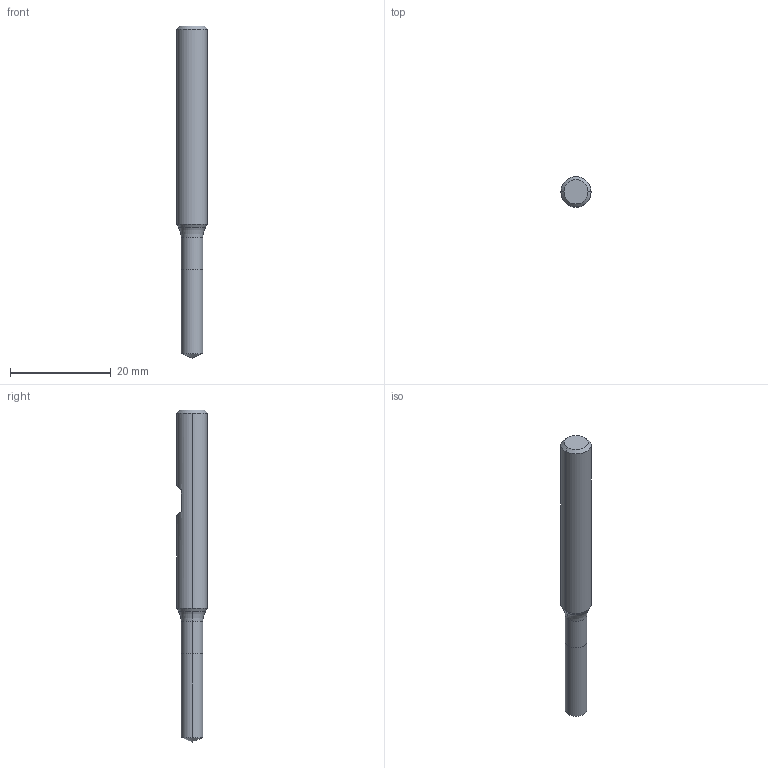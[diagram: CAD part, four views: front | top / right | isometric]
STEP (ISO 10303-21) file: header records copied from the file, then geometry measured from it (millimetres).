
FILE_DESCRIPTION (( 'STEP AP214' ), '1' );
FILE_NAME ('843.043.10_3D-model.step', '2022-02-24T02:56:51', ( '' ), ( '' ), 'SwSTEP 2.0', 'SolidWorks 2020', '' );
FILE_SCHEMA (( 'AUTOMOTIVE_DESIGN' ));
Length unit declared in the file: millimetre
Products named in the file (3): 843.043.10_3D-model; NOCUT-3D^Baugr18; CUT-3D^Baugr18
Assembly tree (2 placements, depth 2):
  843.043.10_3D-model
    CUT-3D^Baugr18
    NOCUT-3D^Baugr18
Bounding box: 6 x 6 x 66 mm (x, y, z)
Volume: 1487.1 mm3; surface area: 1163.6 mm2
Topology: 2 solids, 2 shells, 20 faces, 38 edges, 21 vertices
Faces by surface type: cone 6, cylinder 6, plane 6, torus 2
Entity records: 608 total; most frequent: DIRECTION 108, CARTESIAN_POINT 91, ORIENTED_EDGE 72, AXIS2_PLACEMENT_3D 46, EDGE_CURVE 36, EDGE_LOOP 21, VERTEX_POINT 21, FACE_OUTER_BOUND 20
